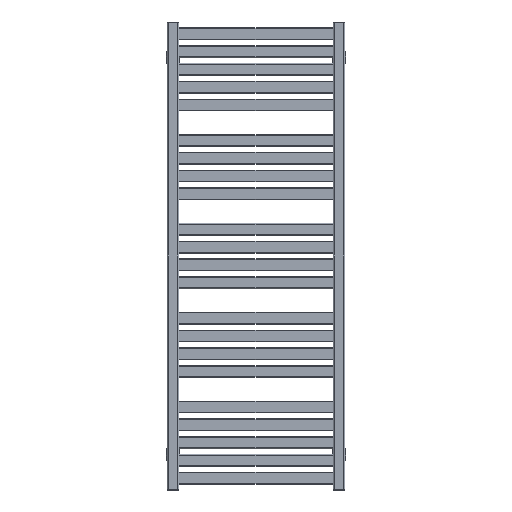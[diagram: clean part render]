
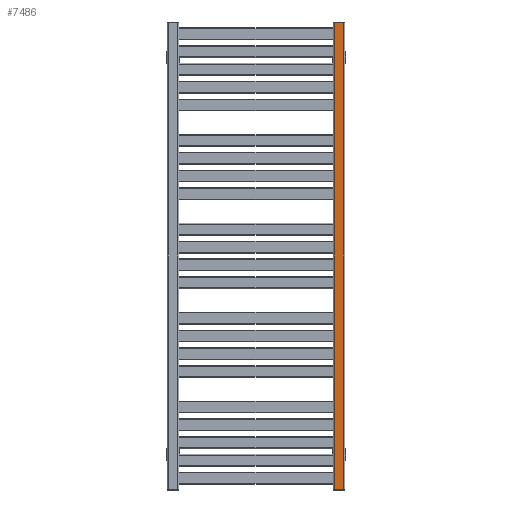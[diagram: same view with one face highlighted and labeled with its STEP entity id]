
A CAD part, front view. The second image highlights one B-rep face of the part: STEP entity #7486.
In plain terms, the highlighted planar face has unit normal (0, -1, 0).
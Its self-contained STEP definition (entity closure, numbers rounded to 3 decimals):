
#6152=CARTESIAN_POINT('',(198.,-15.,1.5));
#6153=VERTEX_POINT('',#6152);
#6210=CARTESIAN_POINT('',(222.,-15.,1.5));
#6211=VERTEX_POINT('',#6210);
#6219=CARTESIAN_POINT('',(222.,-15.,1.5));
#6220=DIRECTION('',(-1.0,0.0,0.0));
#6221=VECTOR('',#6220,24.);
#6222=LINE('',#6219,#6221);
#6223=EDGE_CURVE('',#6211,#6153,#6222,.T.);
#6871=CARTESIAN_POINT('',(198.,-15.,1183.5));
#6872=VERTEX_POINT('',#6871);
#6873=CARTESIAN_POINT('',(198.,-15.,1.5));
#6874=DIRECTION('',(0.0,0.0,1.0));
#6875=VECTOR('',#6874,1182.0);
#6876=LINE('',#6873,#6875);
#6877=EDGE_CURVE('',#6153,#6872,#6876,.T.);
#7089=CARTESIAN_POINT('',(222.,-15.,1183.5));
#7090=VERTEX_POINT('',#7089);
#7106=CARTESIAN_POINT('',(198.,-15.,1183.5));
#7107=DIRECTION('',(1.0,0.0,0.0));
#7108=VECTOR('',#7107,24.);
#7109=LINE('',#7106,#7108);
#7110=EDGE_CURVE('',#6872,#7090,#7109,.T.);
#7466=CARTESIAN_POINT('',(222.,-15.,1183.5));
#7467=DIRECTION('',(0.0,0.0,-1.0));
#7468=VECTOR('',#7467,1182.0);
#7469=LINE('',#7466,#7468);
#7470=EDGE_CURVE('',#7090,#6211,#7469,.T.);
#7475=CARTESIAN_POINT('',(225.,-15.,0.0));
#7476=DIRECTION('',(0.0,-1.0,0.0));
#7477=DIRECTION('',(0.0,0.0,-1.0));
#7478=AXIS2_PLACEMENT_3D('',#7475,#7476,#7477);
#7479=PLANE('',#7478);
#7480=ORIENTED_EDGE('',*,*,#6223,.F.);
#7481=ORIENTED_EDGE('',*,*,#7470,.F.);
#7482=ORIENTED_EDGE('',*,*,#7110,.F.);
#7483=ORIENTED_EDGE('',*,*,#6877,.F.);
#7484=EDGE_LOOP('',(#7480,#7481,#7482,#7483));
#7485=FACE_OUTER_BOUND('',#7484,.T.);
#7486=ADVANCED_FACE('',(#7485),#7479,.T.);
